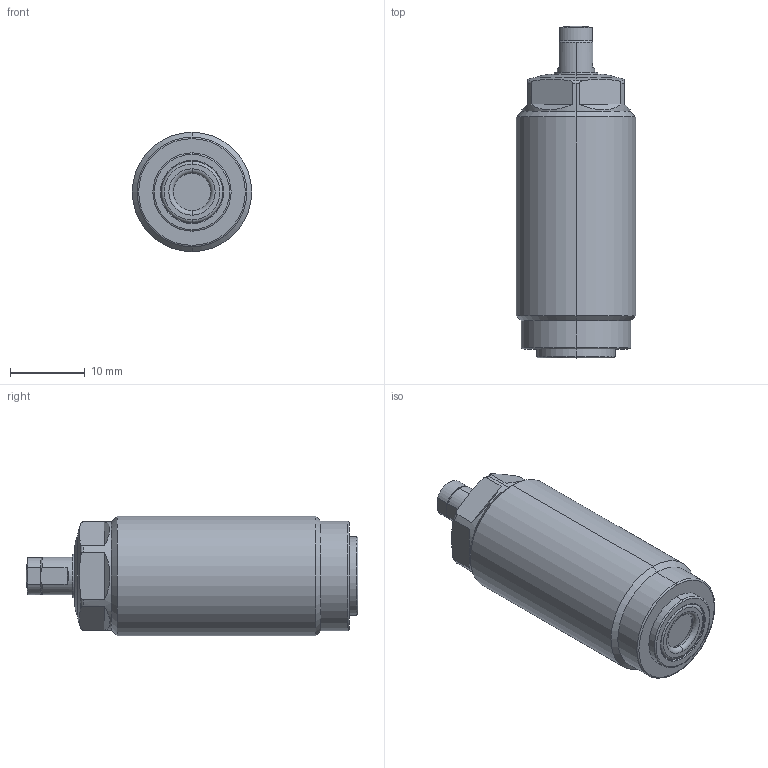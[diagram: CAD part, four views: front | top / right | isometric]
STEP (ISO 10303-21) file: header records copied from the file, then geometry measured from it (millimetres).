
FILE_DESCRIPTION(/* description */ (''),/* implementation_level */ '2;1');
FILE_NAME(/* name */ 'TNL16.stp',/* time_stamp */ '2025-01-09T14:29:47+08:00',/* author */ (''),/* organization */ (''),/* preprocessor_version */ 'ST-DEVELOPER v16.7',/* originating_system */ 'SIEMENS PLM Software NX 12.0',/* authorisation */ '');
FILE_SCHEMA (('AUTOMOTIVE_DESIGN { 1 0 10303 214 3 1 1 1 }'));
Length unit declared in the file: millimetre
Products named in the file (4): TNL16-10; TNL16-002; TNL16-001; TNL16_stp
Assembly tree (3 placements, depth 2):
  TNL16_stp
    TNL16-001
    TNL16-002
    TNL16-10
Bounding box: 16 x 44.5 x 16 mm (x, y, z)
Volume: 7116.3 mm3; surface area: 2711.6 mm2
Topology: 4 solids, 4 shells, 110 faces, 244 edges, 149 vertices
Faces by surface type: plane 33, torus 29, cylinder 28, cone 19, sphere 1
Full cylindrical faces by diameter (mm): 2.1 x1, 3 x1
Entity records: 3347 total; most frequent: CARTESIAN_POINT 808, DIRECTION 564, ORIENTED_EDGE 468, AXIS2_PLACEMENT_3D 246, EDGE_CURVE 234, VERTEX_POINT 148, CIRCLE 132, EDGE_LOOP 126
